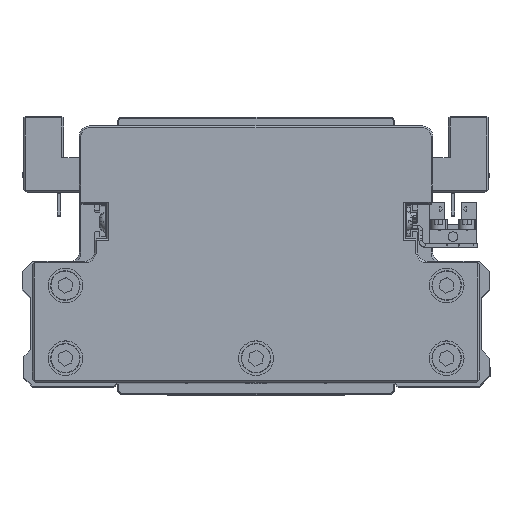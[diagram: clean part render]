
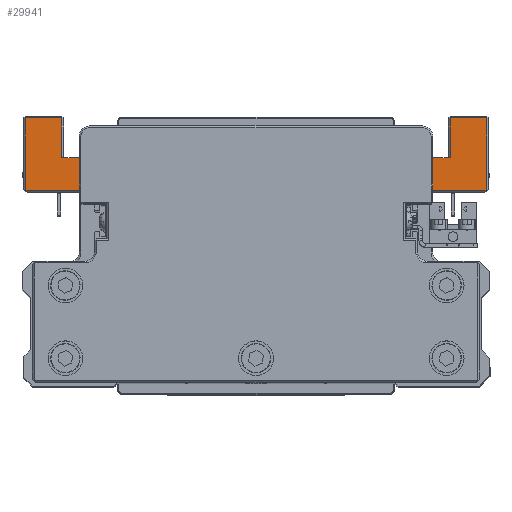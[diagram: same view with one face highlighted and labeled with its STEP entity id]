
A CAD part, top view. The second image highlights one B-rep face of the part: STEP entity #29941.
In plain terms, the highlighted planar face has unit normal (0, 0, 1) as drawn and (0, -1, 0) by its records, which use the part's own axes.
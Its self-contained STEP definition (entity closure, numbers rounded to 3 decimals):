
#70 = DIRECTION ( 'NONE',  ( -1., 0., 0. ) ) ;
#178 = ORIENTED_EDGE ( 'NONE', *, *, #37252, .T. ) ;
#265 = CARTESIAN_POINT ( 'NONE',  ( 0., -45., 0. ) ) ;
#640 = CARTESIAN_POINT ( 'NONE',  ( -56., -45., -64. ) ) ;
#1478 = CARTESIAN_POINT ( 'NONE',  ( 56., -45., -64. ) ) ;
#1608 = VERTEX_POINT ( 'NONE', #20108 ) ;
#2010 = ORIENTED_EDGE ( 'NONE', *, *, #20201, .T. ) ;
#2133 = VERTEX_POINT ( 'NONE', #18217 ) ;
#2239 = EDGE_CURVE ( 'NONE', #28814, #15084, #9617, .T. ) ;
#2255 = DIRECTION ( 'NONE',  ( 0., 0., 1. ) ) ;
#2275 = CARTESIAN_POINT ( 'NONE',  ( 40.066, -45., -41.5 ) ) ;
#2610 = CARTESIAN_POINT ( 'NONE',  ( -40.066, -45., -41.5 ) ) ;
#2628 = LINE ( 'NONE', #14766, #20757 ) ;
#2844 = EDGE_CURVE ( 'NONE', #29477, #18600, #2628, .T. ) ;
#3259 = DIRECTION ( 'NONE',  ( -1., 0., 0. ) ) ;
#3363 = LINE ( 'NONE', #15515, #11649 ) ;
#3374 = ORIENTED_EDGE ( 'NONE', *, *, #36174, .T. ) ;
#3753 = VERTEX_POINT ( 'NONE', #33493 ) ;
#4832 = LINE ( 'NONE', #16971, #20633 ) ;
#4991 = DIRECTION ( 'NONE',  ( 1., 0., 0. ) ) ;
#5630 = VECTOR ( 'NONE', #4991, 1000. ) ;
#5749 = AXIS2_PLACEMENT_3D ( 'NONE', #265, #12395, #24524 ) ;
#5765 = EDGE_CURVE ( 'NONE', #35057, #21435, #26056, .T. ) ;
#5791 = CARTESIAN_POINT ( 'NONE',  ( -46., -45., -54. ) ) ;
#6411 = LINE ( 'NONE', #18562, #36409 ) ;
#6460 = LINE ( 'NONE', #18608, #23221 ) ;
#7204 = CARTESIAN_POINT ( 'NONE',  ( -66.5, -45., -64. ) ) ;
#7367 = LINE ( 'NONE', #20508, #14043 ) ;
#7413 = VERTEX_POINT ( 'NONE', #26728 ) ;
#7718 = EDGE_CURVE ( 'NONE', #1608, #18827, #37442, .T. ) ;
#7771 = ORIENTED_EDGE ( 'NONE', *, *, #10898, .T. ) ;
#8535 = CARTESIAN_POINT ( 'NONE',  ( 46., -45., -52.5 ) ) ;
#9238 = EDGE_CURVE ( 'NONE', #15084, #25572, #17375, .T. ) ;
#9524 = ORIENTED_EDGE ( 'NONE', *, *, #25856, .F. ) ;
#9539 = DIRECTION ( 'NONE',  ( -1., 0., 0. ) ) ;
#9617 = LINE ( 'NONE', #21755, #18505 ) ;
#10190 = CARTESIAN_POINT ( 'NONE',  ( -77.786, -45., -42.5 ) ) ;
#10213 = DIRECTION ( 'NONE',  ( 1., 0., 0. ) ) ;
#10228 = CARTESIAN_POINT ( 'NONE',  ( 46., -45., -52.5 ) ) ;
#10412 = VECTOR ( 'NONE', #10945, 1000. ) ;
#10898 = EDGE_CURVE ( 'NONE', #14721, #29477, #20118, .T. ) ;
#10945 = DIRECTION ( 'NONE',  ( 0., 0., 1. ) ) ;
#11649 = VECTOR ( 'NONE', #27629, 1000. ) ;
#11717 = CIRCLE ( 'NONE', #16816, 1.5 ) ;
#11936 = EDGE_CURVE ( 'NONE', #31055, #34379, #6460, .T. ) ;
#12395 = DIRECTION ( 'NONE',  ( 0., -1., 0. ) ) ;
#13908 = VECTOR ( 'NONE', #10213, 1000. ) ;
#14043 = VECTOR ( 'NONE', #32645, 1000. ) ;
#14407 = DIRECTION ( 'NONE',  ( 0., 1., 0. ) ) ;
#14691 = CARTESIAN_POINT ( 'NONE',  ( 66.5, -45., -64. ) ) ;
#14721 = VERTEX_POINT ( 'NONE', #1478 ) ;
#14751 = DIRECTION ( 'NONE',  ( 0., 1., 0. ) ) ;
#14766 = CARTESIAN_POINT ( 'NONE',  ( 66.5, -45., -43.5 ) ) ;
#15084 = VERTEX_POINT ( 'NONE', #640 ) ;
#15193 = CARTESIAN_POINT ( 'NONE',  ( -56., -45., -52.5 ) ) ;
#15206 = LINE ( 'NONE', #27312, #24957 ) ;
#15391 = FACE_OUTER_BOUND ( 'NONE', #34678, .T. ) ;
#15515 = CARTESIAN_POINT ( 'NONE',  ( 56., -45., -64.5 ) ) ;
#15670 = ORIENTED_EDGE ( 'NONE', *, *, #28322, .T. ) ;
#16259 = CARTESIAN_POINT ( 'NONE',  ( -36.217, -45., -42.5 ) ) ;
#16816 = AXIS2_PLACEMENT_3D ( 'NONE', #2610, #14751, #26872 ) ;
#16864 = VERTEX_POINT ( 'NONE', #26445 ) ;
#16971 = CARTESIAN_POINT ( 'NONE',  ( 25.802, -45., -41.111 ) ) ;
#17375 = LINE ( 'NONE', #29497, #20775 ) ;
#17404 = CARTESIAN_POINT ( 'NONE',  ( -40.066, -45., -43. ) ) ;
#18217 = CARTESIAN_POINT ( 'NONE',  ( -39.868, -45., -42.987 ) ) ;
#18391 = LINE ( 'NONE', #30501, #38342 ) ;
#18505 = VECTOR ( 'NONE', #33882, 1000. ) ;
#18562 = CARTESIAN_POINT ( 'NONE',  ( -66.5, -45., -64.5 ) ) ;
#18600 = VERTEX_POINT ( 'NONE', #20845 ) ;
#18608 = CARTESIAN_POINT ( 'NONE',  ( 55.5, -45., -52.5 ) ) ;
#18827 = VERTEX_POINT ( 'NONE', #16259 ) ;
#19169 = ORIENTED_EDGE ( 'NONE', *, *, #5765, .F. ) ;
#20023 = ORIENTED_EDGE ( 'NONE', *, *, #21721, .T. ) ;
#20108 = CARTESIAN_POINT ( 'NONE',  ( 36.217, -45., -42.5 ) ) ;
#20118 = LINE ( 'NONE', #32237, #5630 ) ;
#20201 = EDGE_CURVE ( 'NONE', #18600, #7413, #15206, .T. ) ;
#20508 = CARTESIAN_POINT ( 'NONE',  ( -39.868, -45., -42.987 ) ) ;
#20577 = CIRCLE ( 'NONE', #25654, 1.5 ) ;
#20633 = VECTOR ( 'NONE', #29088, 1000. ) ;
#20676 = DIRECTION ( 'NONE',  ( 0., 0., -1. ) ) ;
#20757 = VECTOR ( 'NONE', #26886, 1000. ) ;
#20775 = VECTOR ( 'NONE', #2255, 1000. ) ;
#20845 = CARTESIAN_POINT ( 'NONE',  ( 66.5, -45., -43. ) ) ;
#21435 = VERTEX_POINT ( 'NONE', #33089 ) ;
#21721 = EDGE_CURVE ( 'NONE', #16864, #1608, #4832, .T. ) ;
#21733 = ORIENTED_EDGE ( 'NONE', *, *, #2844, .T. ) ;
#21755 = CARTESIAN_POINT ( 'NONE',  ( -55.5, -45., -64. ) ) ;
#22329 = DIRECTION ( 'NONE',  ( -1., 0., 0. ) ) ;
#23221 = VECTOR ( 'NONE', #30728, 1000. ) ;
#23903 = ORIENTED_EDGE ( 'NONE', *, *, #11936, .F. ) ;
#24131 = ORIENTED_EDGE ( 'NONE', *, *, #31948, .T. ) ;
#24524 = DIRECTION ( 'NONE',  ( 0., 0., -1. ) ) ;
#24668 = LINE ( 'NONE', #36795, #35146 ) ;
#24957 = VECTOR ( 'NONE', #70, 1000. ) ;
#25340 = LINE ( 'NONE', #37461, #13908 ) ;
#25572 = VERTEX_POINT ( 'NONE', #15193 ) ;
#25631 = EDGE_CURVE ( 'NONE', #3753, #28814, #6411, .T. ) ;
#25654 = AXIS2_PLACEMENT_3D ( 'NONE', #2275, #14407, #26522 ) ;
#25856 = EDGE_CURVE ( 'NONE', #34379, #38994, #35758, .T. ) ;
#26056 = LINE ( 'NONE', #38191, #10412 ) ;
#26445 = CARTESIAN_POINT ( 'NONE',  ( 39.868, -45., -42.987 ) ) ;
#26522 = DIRECTION ( 'NONE',  ( 0., 0., -1. ) ) ;
#26728 = CARTESIAN_POINT ( 'NONE',  ( 40.066, -45., -43. ) ) ;
#26872 = DIRECTION ( 'NONE',  ( 0., 0., -1. ) ) ;
#26886 = DIRECTION ( 'NONE',  ( 0., 0., 1. ) ) ;
#27312 = CARTESIAN_POINT ( 'NONE',  ( 40.066, -45., -43. ) ) ;
#27352 = EDGE_CURVE ( 'NONE', #36167, #3753, #24668, .T. ) ;
#27373 = CARTESIAN_POINT ( 'NONE',  ( 46., -45., -54. ) ) ;
#27503 = PLANE ( 'NONE',  #5749 ) ;
#27629 = DIRECTION ( 'NONE',  ( 0., 0., -1. ) ) ;
#27746 = ORIENTED_EDGE ( 'NONE', *, *, #9238, .T. ) ;
#28322 = EDGE_CURVE ( 'NONE', #35057, #38994, #25340, .T. ) ;
#28814 = VERTEX_POINT ( 'NONE', #7204 ) ;
#29088 = DIRECTION ( 'NONE',  ( -0.991, 0., 0.132 ) ) ;
#29477 = VERTEX_POINT ( 'NONE', #14691 ) ;
#29497 = CARTESIAN_POINT ( 'NONE',  ( -56., -45., -52.5 ) ) ;
#29941 = ADVANCED_FACE ( 'NONE', ( #15391 ), #27503, .T. ) ;
#30024 = ORIENTED_EDGE ( 'NONE', *, *, #27352, .T. ) ;
#30501 = CARTESIAN_POINT ( 'NONE',  ( -55.5, -45., -52.5 ) ) ;
#30681 = DIRECTION ( 'NONE',  ( 0., 0., -1. ) ) ;
#30728 = DIRECTION ( 'NONE',  ( -1., 0., 0. ) ) ;
#31055 = VERTEX_POINT ( 'NONE', #37521 ) ;
#31948 = EDGE_CURVE ( 'NONE', #18827, #2133, #7367, .T. ) ;
#32237 = CARTESIAN_POINT ( 'NONE',  ( 67., -45., -64. ) ) ;
#32370 = ORIENTED_EDGE ( 'NONE', *, *, #36022, .F. ) ;
#32645 = DIRECTION ( 'NONE',  ( -0.991, 0., -0.132 ) ) ;
#32675 = VECTOR ( 'NONE', #22329, 1000. ) ;
#33089 = CARTESIAN_POINT ( 'NONE',  ( -46., -45., -52.5 ) ) ;
#33493 = CARTESIAN_POINT ( 'NONE',  ( -66.5, -45., -43. ) ) ;
#33863 = VECTOR ( 'NONE', #20676, 1000. ) ;
#33882 = DIRECTION ( 'NONE',  ( 1., 0., 0. ) ) ;
#34379 = VERTEX_POINT ( 'NONE', #10228 ) ;
#34422 = ORIENTED_EDGE ( 'NONE', *, *, #7718, .T. ) ;
#34678 = EDGE_LOOP ( 'NONE', ( #34422, #24131, #37618, #30024, #37500, #35461, #27746, #32370, #19169, #15670, #9524, #23903, #178, #7771, #21733, #2010, #3374, #20023 ) ) ;
#35057 = VERTEX_POINT ( 'NONE', #5791 ) ;
#35146 = VECTOR ( 'NONE', #9539, 1000. ) ;
#35461 = ORIENTED_EDGE ( 'NONE', *, *, #2239, .T. ) ;
#35758 = LINE ( 'NONE', #8535, #33863 ) ;
#36022 = EDGE_CURVE ( 'NONE', #21435, #25572, #18391, .T. ) ;
#36167 = VERTEX_POINT ( 'NONE', #17404 ) ;
#36174 = EDGE_CURVE ( 'NONE', #7413, #16864, #20577, .T. ) ;
#36409 = VECTOR ( 'NONE', #30681, 1000. ) ;
#36654 = EDGE_CURVE ( 'NONE', #2133, #36167, #11717, .T. ) ;
#36795 = CARTESIAN_POINT ( 'NONE',  ( -66., -45., -43. ) ) ;
#37252 = EDGE_CURVE ( 'NONE', #31055, #14721, #3363, .T. ) ;
#37442 = LINE ( 'NONE', #10190, #32675 ) ;
#37461 = CARTESIAN_POINT ( 'NONE',  ( 46., -45., -54. ) ) ;
#37500 = ORIENTED_EDGE ( 'NONE', *, *, #25631, .T. ) ;
#37521 = CARTESIAN_POINT ( 'NONE',  ( 56., -45., -52.5 ) ) ;
#37618 = ORIENTED_EDGE ( 'NONE', *, *, #36654, .T. ) ;
#38191 = CARTESIAN_POINT ( 'NONE',  ( -46., -45., -52.5 ) ) ;
#38342 = VECTOR ( 'NONE', #3259, 1000. ) ;
#38994 = VERTEX_POINT ( 'NONE', #27373 ) ;
